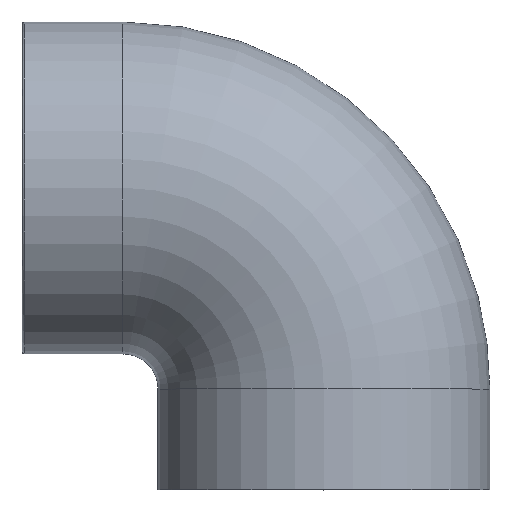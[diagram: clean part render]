
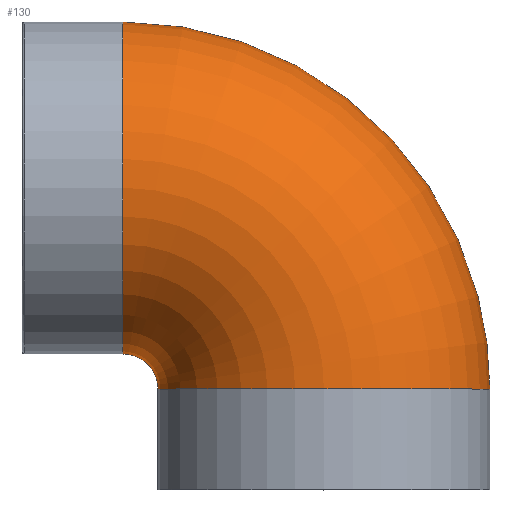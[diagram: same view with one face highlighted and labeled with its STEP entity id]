
A CAD part, top view. The second image highlights one B-rep face of the part: STEP entity #130.
In plain terms, the highlighted toroidal (fillet/blend) face has major radius 80 mm and minor radius 66 mm.
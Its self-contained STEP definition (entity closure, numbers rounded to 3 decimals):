
#28=FACE_BOUND('',#56,.T.);
#39=FACE_OUTER_BOUND('',#55,.T.);
#55=EDGE_LOOP('',(#110));
#56=EDGE_LOOP('',(#111));
#73=CIRCLE('',#150,66.);
#74=CIRCLE('',#151,66.);
#84=VERTEX_POINT('',#225);
#85=VERTEX_POINT('',#227);
#95=EDGE_CURVE('',#84,#84,#73,.T.);
#96=EDGE_CURVE('',#85,#85,#74,.T.);
#110=ORIENTED_EDGE('',*,*,#95,.T.);
#111=ORIENTED_EDGE('',*,*,#96,.T.);
#123=TOROIDAL_SURFACE('',#149,80.,66.);
#130=ADVANCED_FACE('',(#39,#28),#123,.T.);
#149=AXIS2_PLACEMENT_3D('',#224,#184,#185);
#150=AXIS2_PLACEMENT_3D('',#226,#186,#187);
#151=AXIS2_PLACEMENT_3D('',#228,#188,#189);
#184=DIRECTION('center_axis',(0.,0.,-1.));
#185=DIRECTION('ref_axis',(-1.,0.,0.));
#186=DIRECTION('center_axis',(0.,1.,0.));
#187=DIRECTION('ref_axis',(0.,0.,-1.));
#188=DIRECTION('center_axis',(1.,0.,0.));
#189=DIRECTION('ref_axis',(0.,0.,-1.));
#224=CARTESIAN_POINT('Origin',(-80.,-80.,0.));
#225=CARTESIAN_POINT('',(0.,-80.,66.));
#226=CARTESIAN_POINT('Origin',(0.,-80.,0.));
#227=CARTESIAN_POINT('',(-80.,0.,-66.));
#228=CARTESIAN_POINT('Origin',(-80.,0.,0.));
